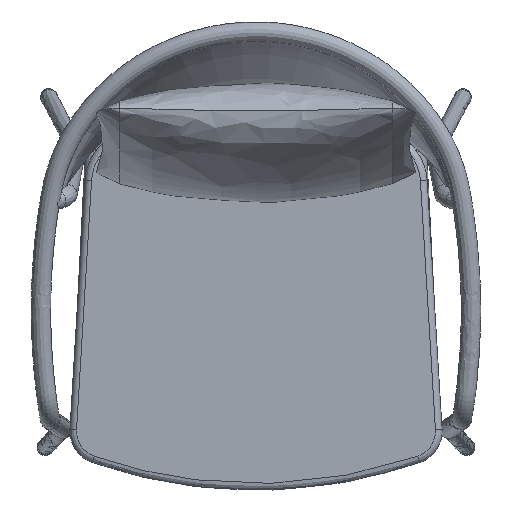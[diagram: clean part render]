
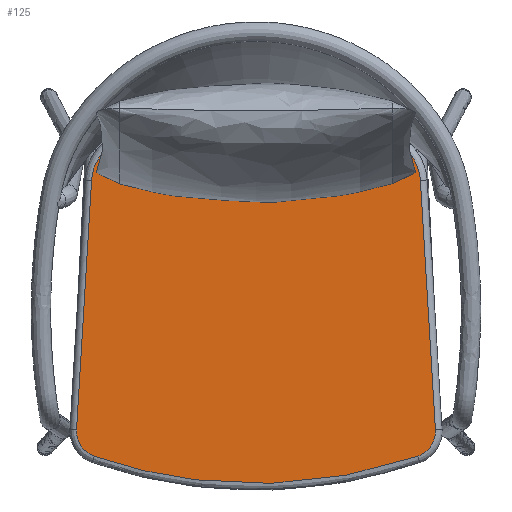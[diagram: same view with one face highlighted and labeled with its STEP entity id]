
A CAD part, top view. The second image highlights one B-rep face of the part: STEP entity #125.
In plain terms, the highlighted planar face has unit normal (0, 0, 1).
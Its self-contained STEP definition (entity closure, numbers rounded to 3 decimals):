
#125=ADVANCED_FACE('',(#200),#1010,.T.);
#200=FACE_OUTER_BOUND('',#279,.T.);
#279=EDGE_LOOP('',(#567,#568,#569,#570,#571,#572,#573));
#567=ORIENTED_EDGE('',*,*,#738,.F.);
#568=ORIENTED_EDGE('',*,*,#736,.F.);
#569=ORIENTED_EDGE('',*,*,#732,.F.);
#570=ORIENTED_EDGE('',*,*,#725,.F.);
#571=ORIENTED_EDGE('',*,*,#722,.F.);
#572=ORIENTED_EDGE('',*,*,#716,.F.);
#573=ORIENTED_EDGE('',*,*,#709,.F.);
#709=EDGE_CURVE('',#988,#989,#795,.T.);
#716=EDGE_CURVE('',#989,#990,#876,.T.);
#722=EDGE_CURVE('',#990,#985,#882,.T.);
#725=EDGE_CURVE('',#985,#986,#885,.T.);
#732=EDGE_CURVE('',#986,#991,#892,.T.);
#736=EDGE_CURVE('',#991,#987,#896,.T.);
#738=EDGE_CURVE('',#987,#988,#898,.T.);
#795=B_SPLINE_CURVE_WITH_KNOTS('',1,(#11581,#11582),.UNSPECIFIED.,.F.,.F.,
(2,2),(0.,376.285),.UNSPECIFIED.);
#876=(
BOUNDED_CURVE()
B_SPLINE_CURVE(3,(#11598,#11599,#11600,#11601,#11602,#11603,#11604,#11605,
#11606,#11607,#11608,#11609,#11610,#11611,#11612,#11613,#11614,#11615,#11616,
#11617,#11618),.UNSPECIFIED.,.F.,.F.)
B_SPLINE_CURVE_WITH_KNOTS((4,1,1,1,1,1,1,1,3,1,1,1,1,1,1,1,4),(0.,
9.265,18.795,28.511,38.322,48.133,
57.849,67.379,76.644,128.671,181.549,
235.011,288.77,342.529,395.991,448.87,
500.896),.UNSPECIFIED.)
CURVE()
GEOMETRIC_REPRESENTATION_ITEM()
RATIONAL_B_SPLINE_CURVE((1.,1.,1.,1.,1.,1.,
1.,1.,1.,1.,1.,1.,1.,1.,1.,1.,
1.,1.,1.,1.,1.))
REPRESENTATION_ITEM('')
);
#882=(
BOUNDED_CURVE()
B_SPLINE_CURVE(2,(#11652,#11653,#11654),.UNSPECIFIED.,.F.,.F.)
B_SPLINE_CURVE_WITH_KNOTS((3,3),(0.,76.644),.UNSPECIFIED.)
CURVE()
GEOMETRIC_REPRESENTATION_ITEM()
RATIONAL_B_SPLINE_CURVE((1.,0.854,1.))
REPRESENTATION_ITEM('')
);
#885=(
BOUNDED_CURVE()
B_SPLINE_CURVE(1,(#11660,#11661),.UNSPECIFIED.,.F.,.F.)
B_SPLINE_CURVE_WITH_KNOTS((2,2),(0.,376.285),
 .UNSPECIFIED.)
CURVE()
GEOMETRIC_REPRESENTATION_ITEM()
RATIONAL_B_SPLINE_CURVE((1.,1.))
REPRESENTATION_ITEM('')
);
#892=(
BOUNDED_CURVE()
B_SPLINE_CURVE(2,(#11678,#11679,#11680),.UNSPECIFIED.,.F.,.F.)
B_SPLINE_CURVE_WITH_KNOTS((3,3),(0.,51.884),.UNSPECIFIED.)
CURVE()
GEOMETRIC_REPRESENTATION_ITEM()
RATIONAL_B_SPLINE_CURVE((1.,0.797,1.))
REPRESENTATION_ITEM('')
);
#896=(
BOUNDED_CURVE()
B_SPLINE_CURVE(2,(#11690,#11691,#11692),.UNSPECIFIED.,.F.,.F.)
B_SPLINE_CURVE_WITH_KNOTS((3,3),(0.,496.125),.UNSPECIFIED.)
CURVE()
GEOMETRIC_REPRESENTATION_ITEM()
RATIONAL_B_SPLINE_CURVE((1.,0.945,1.))
REPRESENTATION_ITEM('')
);
#898=(
BOUNDED_CURVE()
B_SPLINE_CURVE(2,(#11696,#11697,#11698),.UNSPECIFIED.,.F.,.F.)
B_SPLINE_CURVE_WITH_KNOTS((3,3),(0.,51.884),.UNSPECIFIED.)
CURVE()
GEOMETRIC_REPRESENTATION_ITEM()
RATIONAL_B_SPLINE_CURVE((1.,0.797,1.))
REPRESENTATION_ITEM('')
);
#985=VERTEX_POINT('',#11519);
#986=VERTEX_POINT('',#11520);
#987=VERTEX_POINT('',#11521);
#988=VERTEX_POINT('',#11522);
#989=VERTEX_POINT('',#11523);
#990=VERTEX_POINT('',#11524);
#991=VERTEX_POINT('',#11525);
#1010=PLANE('',#1089);
#1089=AXIS2_PLACEMENT_3D('',#11503,#1106,$);
#1106=DIRECTION('',(0.,0.,1.));
#11503=CARTESIAN_POINT('',(-336.447,283.128,385.));
#11519=CARTESIAN_POINT('',(247.673,111.826,385.));
#11520=CARTESIAN_POINT('',(270.3,-263.777,385.));
#11521=CARTESIAN_POINT('',(-243.48,-303.974,385.));
#11522=CARTESIAN_POINT('',(-270.3,-263.777,385.));
#11523=CARTESIAN_POINT('',(-247.673,111.827,385.));
#11524=CARTESIAN_POINT('',(206.069,171.655,385.));
#11525=CARTESIAN_POINT('',(243.48,-303.974,385.));
#11581=CARTESIAN_POINT('',(-270.3,-263.777,385.));
#11582=CARTESIAN_POINT('',(-247.673,111.827,385.));
#11598=CARTESIAN_POINT('',(-247.673,111.827,385.));
#11599=CARTESIAN_POINT('',(-247.487,114.91,385.));
#11600=CARTESIAN_POINT('',(-246.696,121.139,385.));
#11601=CARTESIAN_POINT('',(-244.242,130.343,385.));
#11602=CARTESIAN_POINT('',(-240.478,139.293,385.));
#11603=CARTESIAN_POINT('',(-235.459,147.713,385.));
#11604=CARTESIAN_POINT('',(-229.312,155.35,385.));
#11605=CARTESIAN_POINT('',(-222.232,161.994,385.));
#11606=CARTESIAN_POINT('',(-214.458,167.499,385.));
#11607=CARTESIAN_POINT('',(-208.894,170.409,385.));
#11608=CARTESIAN_POINT('',(-206.069,171.656,385.));
#11609=CARTESIAN_POINT('',(-190.204,178.66,385.));
#11610=CARTESIAN_POINT('',(-157.493,191.149,385.));
#11611=CARTESIAN_POINT('',(-106.436,204.837,385.));
#11612=CARTESIAN_POINT('',(-53.66,213.232,385.));
#11613=CARTESIAN_POINT('',(0.,216.061,385.));
#11614=CARTESIAN_POINT('',(53.66,213.232,385.));
#11615=CARTESIAN_POINT('',(106.437,204.837,385.));
#11616=CARTESIAN_POINT('',(157.493,191.148,385.));
#11617=CARTESIAN_POINT('',(190.204,178.659,385.));
#11618=CARTESIAN_POINT('',(206.069,171.655,385.));
#11652=CARTESIAN_POINT('',(206.069,171.655,385.));
#11653=CARTESIAN_POINT('',(245.107,154.422,385.));
#11654=CARTESIAN_POINT('',(247.673,111.826,385.));
#11660=CARTESIAN_POINT('',(247.673,111.826,385.));
#11661=CARTESIAN_POINT('',(270.3,-263.777,385.));
#11678=CARTESIAN_POINT('',(270.3,-263.777,385.));
#11679=CARTESIAN_POINT('',(272.123,-294.039,385.));
#11680=CARTESIAN_POINT('',(243.48,-303.974,385.));
#11690=CARTESIAN_POINT('',(243.48,-303.974,385.));
#11691=CARTESIAN_POINT('',(0.,-388.424,385.));
#11692=CARTESIAN_POINT('',(-243.48,-303.974,385.));
#11696=CARTESIAN_POINT('',(-243.48,-303.974,385.));
#11697=CARTESIAN_POINT('',(-272.123,-294.039,385.));
#11698=CARTESIAN_POINT('',(-270.3,-263.777,385.));
